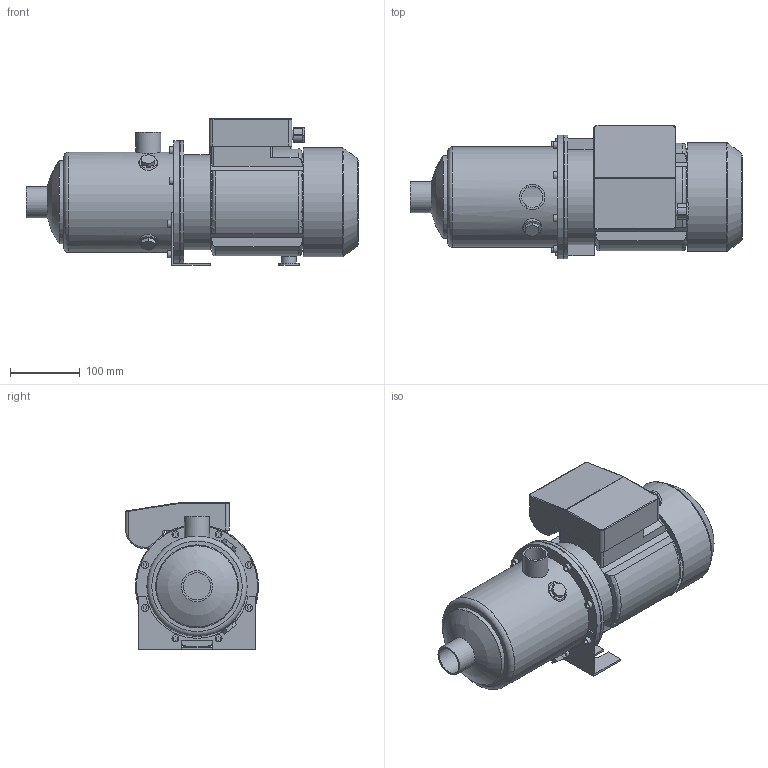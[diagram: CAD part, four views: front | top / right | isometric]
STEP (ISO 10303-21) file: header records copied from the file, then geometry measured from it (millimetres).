
FILE_DESCRIPTION(/* description */ ('Unknown'),/* implementation_level */ '2;1');
FILE_NAME(/* name */ 'MH 5 [6] M',/* time_stamp */ '2026-07-10T14:58:13+02:00',/* author */ ('Unknown'),/* organization */ ('Unknown'),/* preprocessor_version */ 'ST-DEVELOPER v20',/* originating_system */ 'Solid Edge',/* authorisation */ 'Unknown');
FILE_SCHEMA (('AUTOMOTIVE_DESIGN {1 0 10303 214 3 1 1}'));
Length unit declared in the file: millimetre
Products named in the file (10): MH 5 [6] M; Flangia motore Tonda M80; Corpo MH 3-5 [6]; Mot_Wendy_MEC80_11-15_M; carcassa MEC 80-Wendy; Copriventola MEC 80-Wendy; Basetta MEC 80 M-Wendy_new; 1; Piedino MEC 80 int.90; Staffa 3-5-9 int.90
Assembly tree (9 placements, depth 3):
  MH 5 [6] M
    Flangia motore Tonda M80
    Corpo MH 3-5 [6]
    Mot_Wendy_MEC80_11-15_M
      carcassa MEC 80-Wendy
      Copriventola MEC 80-Wendy
      Basetta MEC 80 M-Wendy_new
      1
    Piedino MEC 80 int.90
    Staffa 3-5-9 int.90
Bounding box: 475.1 x 190.75 x 209.5 mm (x, y, z)
Volume: 2636665.9 mm3; surface area: 624725.6 mm2
Topology: 8 solids, 8 shells, 287 faces, 678 edges, 447 vertices
Faces by surface type: plane 169, cylinder 79, torus 19, cone 14, bspline 4, sphere 2
Full cylindrical faces by diameter (mm): 7 x4, 10 x9, 12 x1, 15 x1, 16.5 x1, 21 x1, 30 x1, 30.291 x1, 36 x1, 38.952 x1, 44.5 x1, 116.1 x1, 118.5 x1, 125 x1, 130 x3, 134 x1, 136 x1, 141.1 x1, 143.5 x1, 153.5 x1, 155.5 x1, 173.5 x1, 174.1 x1, 176.5 x2
Entity records: 9308 total; most frequent: CARTESIAN_POINT 1776, DIRECTION 1316, ORIENTED_EDGE 1180, EDGE_CURVE 590, AXIS2_PLACEMENT_3D 487, VERTEX_POINT 417, EDGE_LOOP 395, FACE_BOUND 395
